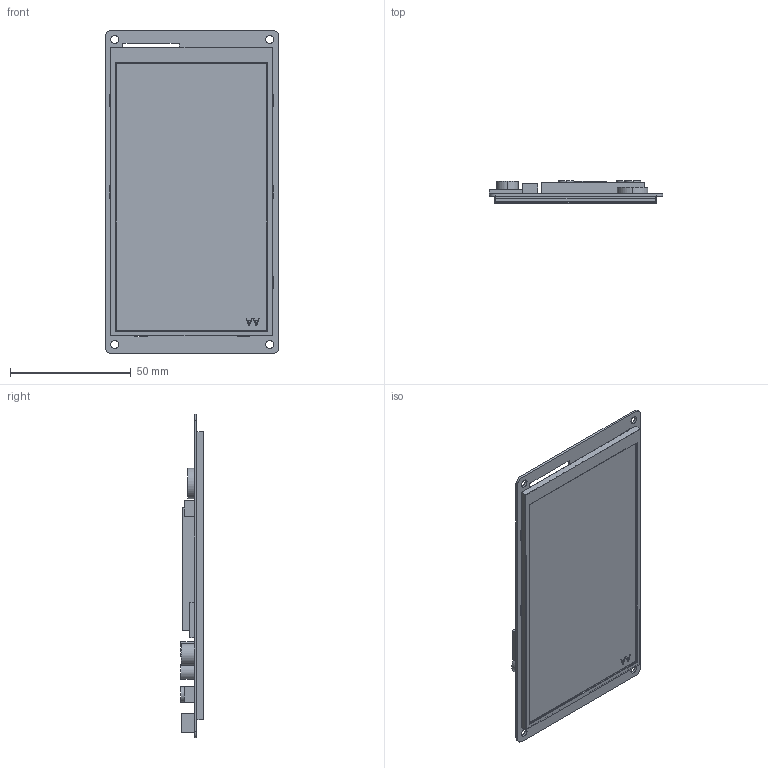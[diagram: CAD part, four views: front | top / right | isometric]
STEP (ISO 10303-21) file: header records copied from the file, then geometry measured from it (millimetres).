
FILE_DESCRIPTION((''),'2;1');
FILE_NAME('DMG12720T050-01WTC_ASM','2022-10-14T',('Administrator'),(''),'PRO/ENGINEER BY PARAMETRIC TECHNOLOGY CORPORATION, 2014320','PRO/ENGINEER BY PARAMETRIC TECHNOLOGY CORPORATION, 2014320','');
FILE_SCHEMA(('CONFIG_CONTROL_DESIGN','SHAPE_APPEARANCE_LAYERS_GROUPS'));
Length unit declared in the file: millimetre
Products named in the file (4): TK050006; TM050JDHC02-00; PCB; DMG12720T050-01WTC_ASM
Assembly tree (3 placements, depth 2):
  DMG12720T050-01WTC_ASM
    TK050006
    TM050JDHC02-00
    PCB
Bounding box: 71.88 x 9.4 x 133.86 mm (x, y, z)
Volume: 35961.9 mm3; surface area: 41933.8 mm2
Topology: 3 solids, 3 shells, 161 faces, 415 edges, 276 vertices
Faces by surface type: plane 130, cylinder 31
Entity records: 5192 total; most frequent: CARTESIAN_POINT 859, ORIENTED_EDGE 830, DIRECTION 813, EDGE_CURVE 415, VECTOR 353, LINE 353, VERTEX_POINT 276, AXIS2_PLACEMENT_3D 230
